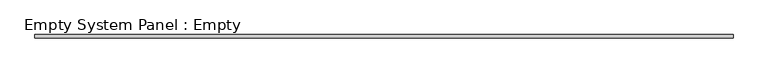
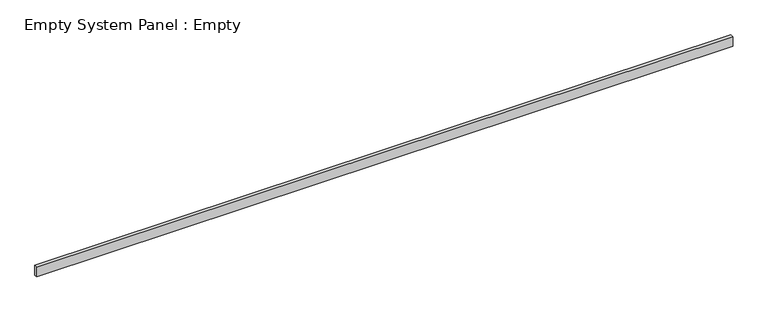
"""IFC4 building model written with IfcOpenShell, lengths in millimetres: plate geometry, Empty System Panel : Empty."""

from ifc_helpers import new_model, si_unit, origin, origin_with_axes, place, context, project, spatial, polyline, outline, extrude, source, transform, mapped, element, save


def empty_system_panel_empty_82ea4807(model_context):
    return source(origin(), model_context, "Body", "SweptSolid", [
        extrude(outline(polyline([(10625.0, -50.0), (-10625.0, -50.0), (-10625.0, 50.0), (10625.0, 50.0), (10625.0, -50.0)])), origin_with_axes(), (0.0, 0.0, 1.0), 310.0),
    ])


if __name__ == "__main__":
    model = new_model("IFC4")
    model_context = context("Model", 3, world=origin())
    ifc_project = project(units=[si_unit("LENGTHUNIT", "METRE", prefix="MILLI")], contexts=[model_context])
    site = spatial("IfcSite", under=ifc_project)
    building = spatial("IfcBuilding", under=site)
    placement = place(None, origin())
    empty_system_panel_empty_shape = empty_system_panel_empty_82ea4807(model_context)
    element("IfcPlate", 1, ObjectType="Empty System Panel : Empty", at=placement, inside=building, context=model_context, shape_type="MappedRepresentation", body=[
        mapped(empty_system_panel_empty_shape, transform((0.0, 0.0, 0.0), x_axis=(1.0, 0.0, 0.0), y_axis=(0.0, 1.0, 0.0), z_axis=(0.0, 0.0, 1.0))),
    ])
    save(model, "model.ifc")
